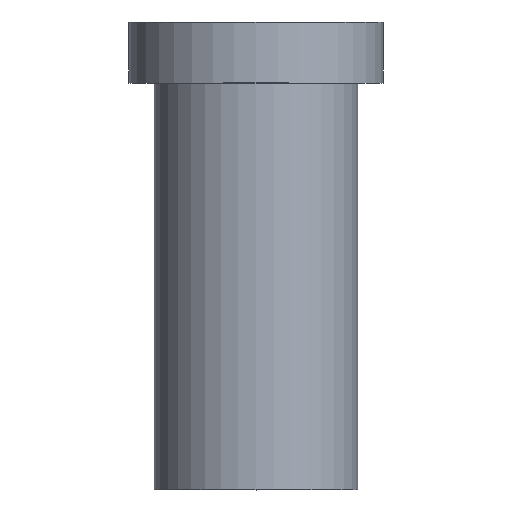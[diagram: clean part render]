
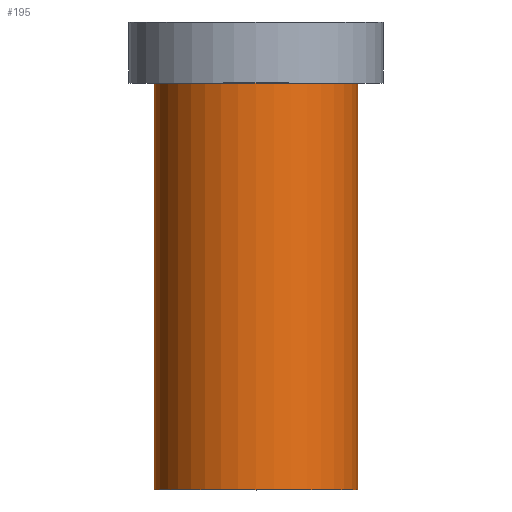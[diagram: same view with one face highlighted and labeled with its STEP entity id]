
A CAD part, top view. The second image highlights one B-rep face of the part: STEP entity #195.
In plain terms, the highlighted cylindrical face has radius 10 mm (diameter 20 mm), a full revolution.
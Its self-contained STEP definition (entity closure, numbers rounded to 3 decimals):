
#32=ORIENTED_EDGE('',*,*,#50,.T.);
#33=ORIENTED_EDGE('',*,*,#49,.F.);
#49=EDGE_CURVE('',#59,#59,#69,.T.);
#50=EDGE_CURVE('',#60,#60,#70,.T.);
#59=VERTEX_POINT('',#280);
#60=VERTEX_POINT('',#283);
#69=CIRCLE('',#213,10.);
#70=CIRCLE('',#215,10.);
#82=EDGE_LOOP('',(#32));
#83=EDGE_LOOP('',(#33));
#102=FACE_BOUND('',#82,.T.);
#103=FACE_BOUND('',#83,.T.);
#117=CYLINDRICAL_SURFACE('',#214,10.);
#195=ADVANCED_FACE('',(#102,#103),#117,.T.);
#213=AXIS2_PLACEMENT_3D('',#279,#241,#242);
#214=AXIS2_PLACEMENT_3D('',#281,#243,#244);
#215=AXIS2_PLACEMENT_3D('',#282,#245,#246);
#241=DIRECTION('',(0.,-1.,0.));
#242=DIRECTION('',(0.,0.,-1.));
#243=DIRECTION('',(0.,-1.,0.));
#244=DIRECTION('',(0.,0.,-1.));
#245=DIRECTION('',(0.,-1.,0.));
#246=DIRECTION('',(0.,0.,-1.));
#279=CARTESIAN_POINT('',(0.,0.,0.));
#280=CARTESIAN_POINT('',(0.,0.,-10.));
#281=CARTESIAN_POINT('',(0.,0.,0.));
#282=CARTESIAN_POINT('',(0.,40.,0.));
#283=CARTESIAN_POINT('',(0.,40.,-10.));
